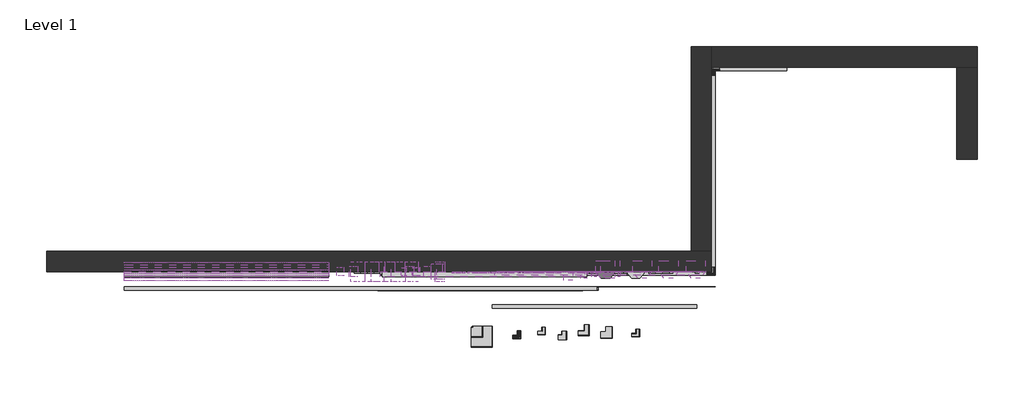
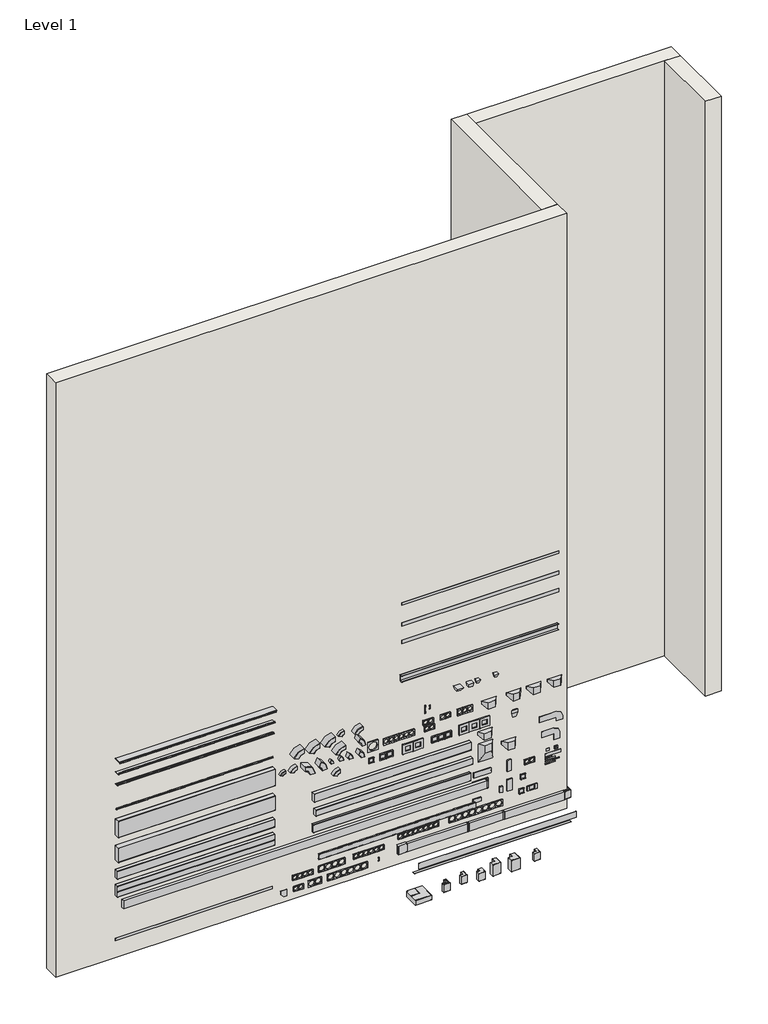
# One storey, incomplete: 102 duct fittings, 6 duct segments, 4 walls.
"""IFC4 building model written with IfcOpenShell, lengths in millimetres."""

from ifc_helpers import new_model, si_unit, frame, origin, origin_with_axes, place, context, project, spatial, polyline, outline, extrude, faceted_brep, transform, mapped, element, save
from components import duct_fitting_524967c6, duct_fitting_e132af29, duct_fitting_ebcba0b6, duct_fitting_5159cedb, duct_fitting_cb53e87e, duct_fitting_ae1ddc4c, duct_fitting_35ec757b, duct_fitting_5cd01834, duct_fitting_7d56ec52, duct_fitting_254dec16, duct_fitting_a8191257, duct_fitting_1f4c8aae, duct_fitting_5f6e9735, duct_fitting_029ce2a5, duct_fitting_9a198fcd, duct_fitting_7a984635, duct_fitting_62789fd8, duct_fitting_515ab3ab, duct_fitting_e9bb6939, duct_fitting_4d7b12ad, duct_fitting_6cefaedd, duct_fitting_5a84a718, duct_fitting_31fdbf1f, duct_fitting_d90a27f4, duct_fitting_3f5c60d5, duct_fitting_a14ef6e3, duct_fitting_0355683d, duct_fitting_19e58b72, duct_fitting_92680814, duct_fitting_5aa6bedc, duct_fitting_eff4ef8f, duct_fitting_faa056fb, duct_fitting_c62ac4ad, duct_fitting_f73fdfc4, duct_fitting_ad07ba2f, duct_fitting_a01ee9ae, duct_fitting_288de5a2, duct_fitting_c295a400, duct_fitting_c2f39a06, duct_fitting_8fd437b2, duct_fitting_39125e1a, duct_fitting_17d0504c, duct_fitting_41b2c8f4, duct_fitting_e029a808, duct_fitting_f42a3732, duct_fitting_51a7aed5, duct_fitting_ee9016c7, duct_fitting_1822938c, duct_fitting_f6a7a035, duct_fitting_b39508ff, duct_fitting_a2bda3cc, duct_fitting_b5dfe02e, duct_fitting_bd13cb54, duct_fitting_b943002c, duct_fitting_d5090730, duct_fitting_d05112f4, duct_fitting_6185d9ba, duct_fitting_d3901d29, duct_fitting_82c3dcf0, duct_fitting_f187d280, duct_fitting_51a21076, duct_fitting_5722930a, duct_fitting_024a02d0, duct_fitting_be0ce938, duct_fitting_b115d703, duct_fitting_147d1e50, duct_fitting_7075a5f6, duct_fitting_60684a8f, duct_fitting_e7094824, duct_fitting_d79518f6, duct_fitting_d154c733, duct_fitting_f8fb050e, duct_fitting_172be3a8, duct_fitting_83ac70ee, duct_fitting_17a0b45b, duct_fitting_cda0d10b, duct_fitting_70961774, duct_fitting_2fd834d6, duct_fitting_55faeba8, duct_fitting_6c5a0378, duct_fitting_362536db, duct_fitting_f2713703, duct_fitting_286deedb, duct_fitting_1d27a6c2, duct_fitting_5fcc4261, duct_fitting_8c5198b3, duct_fitting_a4b7bc50

model = new_model("IFC4")

# Units and contexts
model_context = context("Model", 3, world=origin())
ifc_project = project(units=[si_unit("LENGTHUNIT", "METRE", prefix="MILLI")], contexts=[model_context])

# Site, building, storey
site = spatial("IfcSite", under=ifc_project)
building = spatial("IfcBuilding", under=site)
storey = spatial("IfcBuildingStorey", under=building, Name="Level 1", Elevation=0.0)

# Duct fittings
placement = place(None, origin())
duct_fitting_shape = duct_fitting_524967c6(model_context)
element("IfcDuctFitting", 1, ObjectType="Кабель-канал DLP 65x220 - 2 или 3 секции - длина 2 м - белый : Кабель-канал DLP 65x220 - 2 или 3 секции - длина 2 м - белый", at=placement, inside=storey, context=model_context, shape_type="MappedRepresentation", body=[
    mapped(duct_fitting_shape, transform((-2417.0448539, -490.4153126, 1762.8046436), x_axis=(1.0, 0.0, 0.0), y_axis=(0.0, 0.0, 1.0), z_axis=(0.0, -1.0, 0.0))),
])
duct_fitting_2_shape = duct_fitting_e132af29(model_context)
element("IfcDuctFitting", 2, ObjectType="Модуль для крышек : 40мм", at=placement, inside=storey, context=model_context, shape_type="MappedRepresentation", body=[
    mapped(duct_fitting_2_shape, transform((2185.0475422, -490.4153126, 876.6566543), x_axis=(1.0, 0.0, 0.0), y_axis=(0.0, 0.0, 1.0), z_axis=(0.0, -1.0, 0.0))),
])
duct_fitting_3_shape = duct_fitting_ebcba0b6(model_context)
element("IfcDuctFitting", 3, ObjectType="Накладка на стык - DLP - на защелках - для DLP - секционируемая - белая : Накладка на стык - DLP - на защелках - для DLP - секционируемая - белая", at=placement, inside=storey, context=model_context, shape_type="MappedRepresentation", body=[
    mapped(duct_fitting_3_shape, transform((2085.0475422, -490.4153126, 876.6566543), x_axis=(1.0, 0.0, 0.0), y_axis=(0.0, 0.0, 1.0), z_axis=(0.0, -1.0, 0.0))),
])
duct_fitting_4_shape = duct_fitting_5159cedb(model_context)
element("IfcDuctFitting", 4, ObjectType="Накладка на стык - для крышек - для кабель-канала DLP - белый : 40мм", at=placement, inside=storey, context=model_context, shape_type="MappedRepresentation", body=[
    mapped(duct_fitting_4_shape, transform((2150.0475422, -490.4153126, 809.330706), x_axis=(1.0, 0.0, 0.0), y_axis=(0.0, 0.0, 1.0), z_axis=(0.0, -1.0, 0.0))),
])
duct_fitting_5_shape = duct_fitting_cb53e87e(model_context)
element("IfcDuctFitting", 5, ObjectType="Накладка на стык - для крышек - для кабель-канала DLP - белый : 85мм", at=placement, inside=storey, context=model_context, shape_type="MappedRepresentation", body=[
    mapped(duct_fitting_5_shape, transform((2095.0475422, -490.4153126, 771.6566543), x_axis=(0.0, 0.0, 1.0), y_axis=(-1.0, 0.0, 0.0), z_axis=(0.0, -1.0, 0.0))),
])
duct_fitting_6_shape = duct_fitting_ae1ddc4c(model_context)
element("IfcDuctFitting", 6, ObjectType="Накладка на стык - для крышек - для кабель-канала DLP - белый : 130мм", at=placement, inside=storey, context=model_context, shape_type="MappedRepresentation", body=[
    mapped(duct_fitting_6_shape, transform((2115.0475422, -490.4153126, 748.3126356), x_axis=(0.0, 0.0, 1.0), y_axis=(-1.0, 0.0, 0.0), z_axis=(0.0, -1.0, 0.0))),
])
duct_fitting_7_shape = duct_fitting_35ec757b(model_context)
element("IfcDuctFitting", 7, ObjectType="Накладка на стык - для крышек - для кабель-канала DLP - белый : 180мм", at=placement, inside=storey, context=model_context, shape_type="MappedRepresentation", body=[
    mapped(duct_fitting_7_shape, transform((2140.0475422, -490.4153126, 720.9913157), x_axis=(0.0, 0.0, 1.0), y_axis=(-1.0, 0.0, 0.0), z_axis=(0.0, -1.0, 0.0))),
])
element("IfcDuctFitting", 8, ObjectType="Накладка на стык крышки 65 мм DLP - для любых DLP - секционируемая - белая : Накладка на стык крышки 65 мм DLP - для любых DLP - секционируемая - белая", at=placement, inside=storey, context=model_context, shape_type="MappedRepresentation", body=[
    mapped(duct_fitting_6_shape, transform((2115.0475422, -490.4153126, 689.7700767), x_axis=(0.0, 0.0, 1.0), y_axis=(-1.0, 0.0, 0.0), z_axis=(0.0, -1.0, 0.0))),
])
duct_fitting_8_shape = duct_fitting_5cd01834(model_context)
element("IfcDuctFitting", 9, ObjectType="Накладка на стык со стеной - для кабель-каналов шириной от 80 до 150 мм : Накладка на стык со стеной - для кабель-каналов шириной от 80 до 150 мм", at=placement, inside=storey, context=model_context, shape_type="MappedRepresentation", body=[
    mapped(duct_fitting_8_shape, transform((2085.0475422, -490.4153126, 1020.0), x_axis=(1.0, 0.0, 0.0), y_axis=(0.0, 0.0, 1.0), z_axis=(0.0, -1.0, 0.0))),
])
duct_fitting_9_shape = duct_fitting_7d56ec52(model_context)
element("IfcDuctFitting", 10, ObjectType="Накладка на стык со стеной - для кабель-каналов шириной от 195 до 220 мм : Накладка на стык со стеной - для кабель-каналов шириной от 195 до 220 мм", at=placement, inside=storey, context=model_context, shape_type="MappedRepresentation", body=[
    mapped(duct_fitting_9_shape, transform((2085.0475422, -490.4153126, 1245.573234), x_axis=(1.0, 0.0, 0.0), y_axis=(0.0, 0.0, 1.0), z_axis=(0.0, -1.0, 0.0))),
])
duct_fitting_10_shape = duct_fitting_254dec16(model_context)
element("IfcDuctFitting", 11, ObjectType="Накладка плинтусная - для кабель-канала DLP 35x80 - 2 м - угольно-серый : Накладка плинтусная - для кабель-канала DLP 35x80 - 2 м - угольно-серый", at=placement, inside=storey, context=model_context, shape_type="MappedRepresentation", body=[
    mapped(duct_fitting_10_shape, transform((1360.8088359, -639.2789508, 0.0), x_axis=(1.0, 0.0, 0.0), y_axis=(0.0, 1.0, 0.0), z_axis=(0.0, 0.0, 1.0))),
])
duct_fitting_11_shape = duct_fitting_a8191257(model_context)
element("IfcDuctFitting", 12, ObjectType="Ответветвление плоское 110 Белый : Отвод плоский - для односекционных кабель-каналов DLP 65х150/195/220 - ширина профиля 105 мм - белый", at=placement, inside=storey, context=model_context, shape_type="MappedRepresentation", body=[
    mapped(duct_fitting_11_shape, transform((1660.0475422, -490.4153126, 1512.6828063), x_axis=(1.0, 0.0, 0.0), y_axis=(0.0, 0.0, 1.0), z_axis=(0.0, -1.0, 0.0))),
])
duct_fitting_12_shape = duct_fitting_1f4c8aae(model_context)
element("IfcDuctFitting", 13, ObjectType="Отвод плоский - для перехода на кабель-канал шириной 80 мм - белый : Отвод плоский - для перехода на кабель-канал шириной 80 мм - белый", at=placement, inside=storey, context=model_context, shape_type="MappedRepresentation", body=[
    mapped(duct_fitting_12_shape, transform((1585.0475422, -490.4153126, 1105.3749587), x_axis=(1.0, 0.0, 0.0), y_axis=(0.0, 0.0, 1.0), z_axis=(0.0, -1.0, 0.0))),
])
duct_fitting_13_shape = duct_fitting_5f6e9735(model_context)
element("IfcDuctFitting", 14, ObjectType="Отвод плоский - для перехода на кабель-канал шириной 80 мм - белый : Отвод плоский - для односекционных кабель-каналов DLP 35х80/105, 50х80/150 - белый", at=placement, inside=storey, context=model_context, shape_type="MappedRepresentation", body=[
    mapped(duct_fitting_13_shape, transform((2170.0475422, -490.4153126, 1736.3974609), x_axis=(1.0, 0.0, 0.0), y_axis=(0.0, 0.0, 1.0), z_axis=(0.0, -1.0, 0.0))),
])
element("IfcDuctFitting", 15, ObjectType="Отвод плоский - для перехода на кабель-канал шириной 80 мм - белый : Отвод плоский - для односекционных кабель-каналов DLP 35х105, 50х150 - ширина крышки 85 мм - белый", at=placement, inside=storey, context=model_context, shape_type="MappedRepresentation", body=[
    mapped(duct_fitting_13_shape, transform((1650.0475422, -490.4153126, 1736.3974609), x_axis=(1.0, 0.0, 0.0), y_axis=(0.0, 0.0, 1.0), z_axis=(0.0, -1.0, 0.0))),
])
duct_fitting_14_shape = duct_fitting_029ce2a5(model_context)
element("IfcDuctFitting", 16, ObjectType="Отвод плоский - для перехода на кабель-канал шириной 80 мм - белый : Отвод плоский - для односекционных кабель-каналов DLP 35х105, 50х150 - ширина крышки 65 мм - белый", at=placement, inside=storey, context=model_context, shape_type="MappedRepresentation", body=[
    mapped(duct_fitting_14_shape, transform((1905.0475422, -490.4153126, 1736.3974609), x_axis=(1.0, 0.0, 0.0), y_axis=(0.0, 0.0, 1.0), z_axis=(0.0, -1.0, 0.0))),
])
duct_fitting_15_shape = duct_fitting_9a198fcd(model_context)
element("IfcDuctFitting", 17, ObjectType="Отвод плоский - для перехода на кабель-канал шириной 80 мм - белый : Отвод плоский - для односекционных кабель-каналов DLP 65х150/195/220 - ширина профиля 105 мм - белый", at=placement, inside=storey, context=model_context, shape_type="MappedRepresentation", body=[
    mapped(duct_fitting_15_shape, transform((1290.0475422, -490.4153126, 1174.3841032), x_axis=(1.0, 0.0, 0.0), y_axis=(0.0, 0.0, 1.0), z_axis=(0.0, -1.0, 0.0))),
])
element("IfcDuctFitting", 18, ObjectType="Отвод плоский - для перехода на кабель-канал шириной 80 мм - белый : Отвод плоский - для односекционных кабель-каналов DLP 50х105 - ширина профиля 80 мм - белый", at=placement, inside=storey, context=model_context, shape_type="MappedRepresentation", body=[
    mapped(duct_fitting_13_shape, transform((1335.0475422, -490.4153126, 1736.3974609), x_axis=(1.0, 0.0, 0.0), y_axis=(0.0, 0.0, 1.0), z_axis=(0.0, -1.0, 0.0))),
])
element("IfcDuctFitting", 19, ObjectType="Отвод плоский - для перехода на кабель-канал шириной 80 мм - белый : Отвод плоский - для односекционных кабель-каналов DLP 50х105 - ширина профиля 105 мм - белый", at=placement, inside=storey, context=model_context, shape_type="MappedRepresentation", body=[
    mapped(duct_fitting_13_shape, transform((1285.0475422, -490.4153126, 1338.1385427), x_axis=(1.0, 0.0, 0.0), y_axis=(0.0, 0.0, 1.0), z_axis=(0.0, -1.0, 0.0))),
])
duct_fitting_16_shape = duct_fitting_7a984635(model_context)
element("IfcDuctFitting", 20, ObjectType="Перегородка несущая - для кабель-каналов DLP 65х150-195-220 - 2 м - белый : Перегородка несущая - для кабель-каналов DLP 65х150-195-220 - 2 м - белый", at=placement, inside=storey, context=model_context, shape_type="MappedRepresentation", body=[
    mapped(duct_fitting_16_shape, transform((1180.0475422, -830.4153126, 85.0789604), x_axis=(1.0, 0.0, 0.0), y_axis=(0.0, 1.0, 0.0), z_axis=(0.0, 0.0, 1.0))),
])
duct_fitting_17_shape = duct_fitting_62789fd8(model_context)
element("IfcDuctFitting", 21, ObjectType="Переходник на напольный кабель-канал : Переходник на напольный кабель-канал", at=placement, inside=storey, context=model_context, shape_type="MappedRepresentation", body=[
    mapped(duct_fitting_17_shape, transform((1408.7945258, -490.4153126, 2125.0), x_axis=(1.0, 0.0, 0.0), y_axis=(0.0, 0.0, 1.0), z_axis=(0.0, -1.0, 0.0))),
])
duct_fitting_18_shape = duct_fitting_515ab3ab(model_context)
duct_fitting_19_shape = duct_fitting_e9bb6939(model_context)
element("IfcDuctFitting", 22, ObjectType="Полная крышка шириной 180 мм - для кабель-канала DLP 65x195 - 2м - белый : Полная крышка шириной 180 мм - для кабель-канала DLP 65x195 - 2м - белый", at=placement, inside=storey, context=model_context, shape_type="MappedRepresentation", body=[
    mapped(duct_fitting_18_shape, transform((-2417.0448539, -490.4153126, 2680.0), x_axis=(-1.0, 0.0, 0.0), y_axis=(0.0, 0.0, -1.0), z_axis=(0.0, -1.0, 0.0))),
    mapped(duct_fitting_19_shape, transform((-2417.0448539, -490.4153126, 2680.0), x_axis=(-1.0, 0.0, 0.0), y_axis=(0.0, 0.0, -1.0), z_axis=(0.0, -1.0, 0.0))),
])
duct_fitting_20_shape = duct_fitting_4d7b12ad(model_context)
element("IfcDuctFitting", 23, ObjectType="Профиль DLP - 35х80 - 2 м - без крышки - белый : Профиль DLP - 35х80 - 2 м - без крышки - белый", at=placement, inside=storey, context=model_context, shape_type="MappedRepresentation", body=[
    mapped(duct_fitting_20_shape, transform((1205.4551461, -490.4153126, 2500.0), x_axis=(1.0, 0.0, 0.0), y_axis=(0.0, 0.0, 1.0), z_axis=(0.0, -1.0, 0.0))),
])
duct_fitting_21_shape = duct_fitting_6cefaedd(model_context)
element("IfcDuctFitting", 24, ObjectType="Разделительная перегородка - DLP - секционируемая - профиль 65 - 2 м - белая : Разделительная перегородка - DLP - секционируемая - профиль 65 - 2 м - белая", at=placement, inside=storey, context=model_context, shape_type="MappedRepresentation", body=[
    mapped(duct_fitting_21_shape, transform((1225.0475422, -490.4153126, 2971.2782527), x_axis=(1.0, 0.0, 0.0), y_axis=(0.0, 0.0, 1.0), z_axis=(0.0, -1.0, 0.0))),
])
element("IfcDuctFitting", 25, ObjectType="Разделительная перегородка - для кабель-каналов DLP 50х80-105-150 - 2м - белый : Разделительная перегородка - для кабель-каналов DLP 50х80-105-150 - 2м - белый", at=placement, inside=storey, context=model_context, shape_type="MappedRepresentation", body=[
    mapped(duct_fitting_21_shape, transform((1225.0475422, -490.4153126, 3207.6586455), x_axis=(1.0, 0.0, 0.0), y_axis=(0.0, 0.0, 1.0), z_axis=(0.0, -1.0, 0.0))),
])
element("IfcDuctFitting", 26, ObjectType="Самоклеющаяся разделительная перегородка - для кабель-канала DLP 35x80 - 2 м - белая : Самоклеющаяся разделительная перегородка - для кабель-канала DLP 35x80 - 2 м - белая", at=placement, inside=storey, context=model_context, shape_type="MappedRepresentation", body=[
    mapped(duct_fitting_16_shape, transform((1225.0475422, -490.4153126, 3482.6867864), x_axis=(1.0, 0.0, 0.0), y_axis=(0.0, 0.0, 1.0), z_axis=(0.0, -1.0, 0.0))),
])
duct_fitting_22_shape = duct_fitting_5a84a718(model_context)
element("IfcDuctFitting", 27, ObjectType="Скоба - для кабель-каналов DLP 35-50X80, 50х105-150, 65х150-220 : Скоба - для кабель-каналов DLP 35-50X80, 50х105-150, 65х150-220", at=placement, inside=storey, context=model_context, shape_type="MappedRepresentation", body=[
    mapped(duct_fitting_22_shape, transform((585.0475422, -490.4153126, 1971.9619828), x_axis=(1.0, 0.0, 0.0), y_axis=(0.0, 0.0, 1.0), z_axis=(0.0, -1.0, 0.0))),
])
duct_fitting_23_shape = duct_fitting_31fdbf1f(model_context)
element("IfcDuctFitting", 28, ObjectType="Скоба - для кабель-каналов DLP с шириной крышки 130-180 мм : Скоба - для кабель-каналов DLP с шириной крышки 130-180 мм", at=placement, inside=storey, context=model_context, shape_type="MappedRepresentation", body=[
    mapped(duct_fitting_23_shape, transform((523.7861812, -490.4153126, 1962.8648404), x_axis=(1.0, 0.0, 0.0), y_axis=(0.0, 0.0, 1.0), z_axis=(0.0, -1.0, 0.0))),
])
duct_fitting_24_shape = duct_fitting_d90a27f4(model_context)
element("IfcDuctFitting", 29, ObjectType="Супп.Mosaic 2м Cv110 Белый : Супп.Mosaic 2м Cv110 Белый", at=placement, inside=storey, context=model_context, shape_type="MappedRepresentation", body=[
    mapped(duct_fitting_24_shape, transform((527.4408833, -490.4153126, 1788.8974609), x_axis=(1.0, 0.0, 0.0), y_axis=(0.0, 0.0, 1.0), z_axis=(0.0, -1.0, 0.0))),
])
element("IfcDuctFitting", 30, ObjectType="Супп.Mosaic 4м Cv110 Белый : Супп.Mosaic 4м Cv110 Белый", at=placement, inside=storey, context=model_context, shape_type="MappedRepresentation", body=[
    mapped(duct_fitting_24_shape, transform((542.0596915, -490.4153126, 1701.4532059), x_axis=(1.0, 0.0, 0.0), y_axis=(0.0, 0.0, 1.0), z_axis=(0.0, -1.0, 0.0))),
])
element("IfcDuctFitting", 31, ObjectType="Суппорт для модульного оборудования - 2 модуля - для кабель-каналов DLP белый : 65мм", at=placement, inside=storey, context=model_context, shape_type="MappedRepresentation", body=[
    mapped(duct_fitting_24_shape, transform((744.8956557, -490.4153126, 1788.8974609), x_axis=(1.0, 0.0, 0.0), y_axis=(0.0, 0.0, 1.0), z_axis=(0.0, -1.0, 0.0))),
])
duct_fitting_25_shape = duct_fitting_3f5c60d5(model_context)
element("IfcDuctFitting", 32, ObjectType="Суппорт для модульного оборудования - 3 модуля - для кабель-каналов DLP с шириной крышки 85 мм - белый : 85мм", at=placement, inside=storey, context=model_context, shape_type="MappedRepresentation", body=[
    mapped(duct_fitting_25_shape, transform((962.3504281, -490.4153126, 1778.8974609), x_axis=(1.0, 0.0, 0.0), y_axis=(0.0, 0.0, 1.0), z_axis=(0.0, -1.0, 0.0))),
])
duct_fitting_26_shape = duct_fitting_a14ef6e3(model_context)
element("IfcDuctFitting", 33, ObjectType="Суппорт для модульного оборудования - 6 модулей - для кабель-каналов DLP с шириной крышки 130 мм - белый : 85мм", at=placement, inside=storey, context=model_context, shape_type="MappedRepresentation", body=[
    mapped(duct_fitting_26_shape, transform((24.9193505, -490.4153126, 1711.7008784), x_axis=(1.0, 0.0, 0.0), y_axis=(0.0, 0.0, 1.0), z_axis=(0.0, -1.0, 0.0))),
])
duct_fitting_27_shape = duct_fitting_0355683d(model_context)
element("IfcDuctFitting", 34, ObjectType="Суппорт для розеток Р17 - для кабель-канала DLP - белый : 130мм", at=placement, inside=storey, context=model_context, shape_type="MappedRepresentation", body=[
    mapped(duct_fitting_27_shape, transform((-145.0242952, -490.4153126, 1709.5312546), x_axis=(1.0, 0.0, 0.0), y_axis=(0.0, 0.0, 1.0), z_axis=(0.0, -1.0, 0.0))),
])
duct_fitting_28_shape = duct_fitting_19e58b72(model_context)
element("IfcDuctFitting", 35, ObjectType="Суппорт универсальный - 1 пост - для кабель-каналов DLP и розеточных блоков - белый : Суппорт универсальный - 1 пост - для кабель-каналов DLP и розеточных блоков - белый", at=placement, inside=storey, context=model_context, shape_type="MappedRepresentation", body=[
    mapped(duct_fitting_28_shape, transform((-165.1251565, -490.4153126, 1522.5825337), x_axis=(1.0, 0.0, 0.0), y_axis=(0.0, 0.0, 1.0), z_axis=(0.0, -1.0, 0.0))),
])
duct_fitting_29_shape = duct_fitting_92680814(model_context)
element("IfcDuctFitting", 36, ObjectType="Суппорт универсальный - 2 поста - для кабель-каналов DLP - белый : 130мм", at=placement, inside=storey, context=model_context, shape_type="MappedRepresentation", body=[
    mapped(duct_fitting_29_shape, transform((299.0220047, -490.4153126, 1525.7482817), x_axis=(1.0, 0.0, 0.0), y_axis=(0.0, 0.0, 1.0), z_axis=(0.0, -1.0, 0.0))),
])
duct_fitting_30_shape = duct_fitting_5aa6bedc(model_context)
element("IfcDuctFitting", 37, ObjectType="Суппорт универсальный - 2 поста - для кабель-каналов DLP - белый : 85мм", at=placement, inside=storey, context=model_context, shape_type="MappedRepresentation", body=[
    mapped(duct_fitting_30_shape, transform((-15.2823722, -490.4153126, 1523.5513621), x_axis=(1.0, 0.0, 0.0), y_axis=(0.0, 0.0, 1.0), z_axis=(0.0, -1.0, 0.0))),
])
duct_fitting_31_shape = duct_fitting_eff4ef8f(model_context)
element("IfcDuctFitting", 38, ObjectType="Суппорт универсальный - 3 поста - для кабель-каналов DLP - белый : 130мм", at=placement, inside=storey, context=model_context, shape_type="MappedRepresentation", body=[
    mapped(duct_fitting_31_shape, transform((1015.3436079, -490.4153126, 1533.3863166), x_axis=(1.0, 0.0, 0.0), y_axis=(0.0, 0.0, 1.0), z_axis=(0.0, -1.0, 0.0))),
])
duct_fitting_32_shape = duct_fitting_faa056fb(model_context)
element("IfcDuctFitting", 39, ObjectType="Суппорт универсальный - 3 поста - для кабель-каналов DLP - белый : 85мм", at=placement, inside=storey, context=model_context, shape_type="MappedRepresentation", body=[
    mapped(duct_fitting_32_shape, transform((642.5639981, -490.4153126, 1526.7751099), x_axis=(1.0, 0.0, 0.0), y_axis=(0.0, 0.0, 1.0), z_axis=(0.0, -1.0, 0.0))),
])
duct_fitting_33_shape = duct_fitting_c62ac4ad(model_context)
duct_fitting_34_shape = duct_fitting_f73fdfc4(model_context)
element("IfcDuctFitting", 40, ObjectType="Частичная крышка шириной 40 мм - для кабель-канала DLP 65x195 - 2м - белый : 40мм", at=placement, inside=storey, context=model_context, shape_type="MappedRepresentation", body=[
    mapped(duct_fitting_33_shape, transform((-2417.0448539, -490.4153126, 2000.0), x_axis=(1.0, 0.0, 0.0), y_axis=(0.0, 0.0, 1.0), z_axis=(0.0, -1.0, 0.0))),
    mapped(duct_fitting_34_shape, transform((-2417.0448539, -490.4153126, 2000.0), x_axis=(1.0, 0.0, 0.0), y_axis=(0.0, 0.0, 1.0), z_axis=(0.0, -1.0, 0.0))),
])
duct_fitting_35_shape = duct_fitting_ad07ba2f(model_context)
duct_fitting_36_shape = duct_fitting_a01ee9ae(model_context)
element("IfcDuctFitting", 41, ObjectType="Частичная крышка шириной 40 мм - для кабель-канала DLP 65x195 - 2м - белый : 85мм", at=placement, inside=storey, context=model_context, shape_type="MappedRepresentation", body=[
    mapped(duct_fitting_35_shape, transform((-2417.0448539, -490.4153126, 2339.6344884), x_axis=(1.0, 0.0, 0.0), y_axis=(0.0, 0.0, 1.0), z_axis=(0.0, -1.0, 0.0))),
    mapped(duct_fitting_36_shape, transform((-2417.0448539, -490.4153126, 2339.6344884), x_axis=(1.0, 0.0, 0.0), y_axis=(0.0, 0.0, 1.0), z_axis=(0.0, -1.0, 0.0))),
])
duct_fitting_37_shape = duct_fitting_288de5a2(model_context)
duct_fitting_38_shape = duct_fitting_c295a400(model_context)
element("IfcDuctFitting", 42, ObjectType="Частичная крышка шириной 40 мм - для кабель-канала DLP 65x195 - 2м - белый : 130мм", at=placement, inside=storey, context=model_context, shape_type="MappedRepresentation", body=[
    mapped(duct_fitting_37_shape, transform((-2417.0448539, -490.4153126, 2500.0), x_axis=(1.0, 0.0, 0.0), y_axis=(0.0, 0.0, 1.0), z_axis=(0.0, -1.0, 0.0))),
    mapped(duct_fitting_38_shape, transform((-2417.0448539, -490.4153126, 2500.0), x_axis=(1.0, 0.0, 0.0), y_axis=(0.0, 0.0, 1.0), z_axis=(0.0, -1.0, 0.0))),
])
duct_fitting_39_shape = duct_fitting_c2f39a06(model_context)
duct_fitting_40_shape = duct_fitting_8fd437b2(model_context)
element("IfcDuctFitting", 43, ObjectType="Частичная крышка шириной 65 мм - для кабель-канала DLP 65x195 - 2м - белый : Частичная крышка шириной 65 мм - для кабель-канала DLP 65x195 - 2м - белый", at=placement, inside=storey, context=model_context, shape_type="MappedRepresentation", body=[
    mapped(duct_fitting_39_shape, transform((65.0475422, -674.2789508, 594.0893649), x_axis=(1.0, 0.0, 0.0), y_axis=(0.0, 1.0, 0.0), z_axis=(0.0, 0.0, 1.0))),
    mapped(duct_fitting_40_shape, transform((65.0475422, -674.2789508, 594.0893649), x_axis=(1.0, 0.0, 0.0), y_axis=(0.0, 1.0, 0.0), z_axis=(0.0, 0.0, 1.0))),
])
duct_fitting_41_shape = duct_fitting_39125e1a(model_context)
element("IfcDuctFitting", 44, ObjectType="DLP Держатель кабеля (скоба) : DLP Держатель кабеля (скоба)", at=placement, inside=storey, context=model_context, shape_type="MappedRepresentation", body=[
    mapped(duct_fitting_41_shape, transform((-64.9524578, -490.4153126, 152.929345), x_axis=(1.0, 0.0, 0.0), y_axis=(0.0, 0.0, 1.0), z_axis=(0.0, -1.0, 0.0))),
])
element("IfcDuctFitting", 45, ObjectType="DLP Сепаратор внутренний : DLP Сепаратор внутренний", at=placement, inside=storey, context=model_context, shape_type="MappedRepresentation", body=[
    mapped(duct_fitting_16_shape, transform((-2417.0448539, -490.4153126, 244.5937942), x_axis=(1.0, 0.0, 0.0), y_axis=(0.0, 0.0, 1.0), z_axis=(0.0, -1.0, 0.0))),
])
duct_fitting_42_shape = duct_fitting_17d0504c(model_context)
element("IfcDuctFitting", 46, ObjectType="DLP Сепаратор для углов : DLP Сепаратор для углов", at=placement, inside=storey, context=model_context, shape_type="MappedRepresentation", body=[
    mapped(duct_fitting_42_shape, transform((-1274.9524578, -490.4153126, 114.9871073), x_axis=(1.0, 0.0, 0.0), y_axis=(0.0, 0.0, 1.0), z_axis=(0.0, -1.0, 0.0))),
])
element("IfcDuctFitting", 47, ObjectType="Mosaic Суппорт на 2 модуля : 65мм", at=placement, inside=storey, context=model_context, shape_type="MappedRepresentation", body=[
    mapped(duct_fitting_24_shape, transform((-1124.9524578, -490.4153126, 135.5347509), x_axis=(1.0, 0.0, 0.0), y_axis=(0.0, 0.0, 1.0), z_axis=(0.0, -1.0, 0.0))),
])
element("IfcDuctFitting", 48, ObjectType="Mosaic Суппорт на 2 модуля : 65мм", at=placement, inside=storey, context=model_context, shape_type="MappedRepresentation", body=[
    mapped(duct_fitting_24_shape, transform((1815.0475422, -490.4153126, 812.7908915), x_axis=(1.0, 0.0, 0.0), y_axis=(0.0, 0.0, 1.0), z_axis=(0.0, -1.0, 0.0))),
])
duct_fitting_43_shape = duct_fitting_41b2c8f4(model_context)
element("IfcDuctFitting", 49, ObjectType="Mosaic Суппорт на 2 модуля : 85мм", at=placement, inside=storey, context=model_context, shape_type="MappedRepresentation", body=[
    mapped(duct_fitting_43_shape, transform((-924.9524578, -490.4153126, 137.0697124), x_axis=(1.0, 0.0, 0.0), y_axis=(0.0, 0.0, 1.0), z_axis=(0.0, -1.0, 0.0))),
])
duct_fitting_44_shape = duct_fitting_e029a808(model_context)
element("IfcDuctFitting", 50, ObjectType="Mosaic Суппорт на 4 модуля : 65мм", at=placement, inside=storey, context=model_context, shape_type="MappedRepresentation", body=[
    mapped(duct_fitting_44_shape, transform((-1134.9524578, -490.4153126, 286.369847), x_axis=(1.0, 0.0, 0.0), y_axis=(0.0, 0.0, 1.0), z_axis=(0.0, -1.0, 0.0))),
])
duct_fitting_45_shape = duct_fitting_f42a3732(model_context)
element("IfcDuctFitting", 51, ObjectType="Mosaic Суппорт на 4 модуля : 85мм", at=placement, inside=storey, context=model_context, shape_type="MappedRepresentation", body=[
    mapped(duct_fitting_45_shape, transform((-794.9524578, -490.4153126, 290.39859), x_axis=(1.0, 0.0, 0.0), y_axis=(0.0, 0.0, 1.0), z_axis=(0.0, -1.0, 0.0))),
])
duct_fitting_46_shape = duct_fitting_51a7aed5(model_context)
element("IfcDuctFitting", 52, ObjectType="Mosaic Суппорт на 6 модуля : 65мм", at=placement, inside=storey, context=model_context, shape_type="MappedRepresentation", body=[
    mapped(duct_fitting_46_shape, transform((-359.9524578, -490.4153126, 301.9163379), x_axis=(1.0, 0.0, 0.0), y_axis=(0.0, 0.0, 1.0), z_axis=(0.0, -1.0, 0.0))),
])
duct_fitting_47_shape = duct_fitting_ee9016c7(model_context)
element("IfcDuctFitting", 53, ObjectType="Mosaic Суппорт на 6 модуля : 85мм", at=placement, inside=storey, context=model_context, shape_type="MappedRepresentation", body=[
    mapped(duct_fitting_47_shape, transform((-679.9524578, -490.4153126, 136.540091), x_axis=(1.0, 0.0, 0.0), y_axis=(0.0, 0.0, 1.0), z_axis=(0.0, -1.0, 0.0))),
])
duct_fitting_48_shape = duct_fitting_1822938c(model_context)
element("IfcDuctFitting", 54, ObjectType="Mosaic Суппорт на 8 модулей : 65мм", at=placement, inside=storey, context=model_context, shape_type="MappedRepresentation", body=[
    mapped(duct_fitting_48_shape, transform((205.0475422, -490.4153126, 371.3713888), x_axis=(1.0, 0.0, 0.0), y_axis=(0.0, 0.0, 1.0), z_axis=(0.0, -1.0, 0.0))),
])
duct_fitting_49_shape = duct_fitting_f6a7a035(model_context)
element("IfcDuctFitting", 55, ObjectType="Mosaic Суппорт на 8 модулей : 85мм", at=placement, inside=storey, context=model_context, shape_type="MappedRepresentation", body=[
    mapped(duct_fitting_49_shape, transform((865.0475422, -490.4153126, 374.0223065), x_axis=(1.0, 0.0, 0.0), y_axis=(0.0, 0.0, 1.0), z_axis=(0.0, -1.0, 0.0))),
])
duct_fitting_50_shape = duct_fitting_b39508ff(model_context)
element("IfcDuctFitting", 56, ObjectType="Заглушка торцевая - для кабель-каналов DLP - белый : 35x105мм", at=placement, inside=storey, context=model_context, shape_type="MappedRepresentation", body=[
    mapped(duct_fitting_50_shape, transform((1205.4551461, -656.7789508, 823.2409027), x_axis=(0.0, 0.0, 1.0), y_axis=(0.0, -1.0, 0.0), z_axis=(1.0, 0.0, 0.0))),
])
duct_fitting_51_shape = duct_fitting_a2bda3cc(model_context)
element("IfcDuctFitting", 57, ObjectType="Заглушка торцевая - для кабель-каналов DLP - белый : 50х105мм", at=placement, inside=storey, context=model_context, shape_type="MappedRepresentation", body=[
    mapped(duct_fitting_51_shape, transform((1180.0475422, -490.4153126, 516.5000708), x_axis=(1.0, 0.0, 0.0), y_axis=(0.0, 0.0, 1.0), z_axis=(0.0, -1.0, 0.0))),
])
duct_fitting_52_shape = duct_fitting_b5dfe02e(model_context)
element("IfcDuctFitting", 58, ObjectType="Заглушка торцевая - для кабель-каналов DLP - белый : 65х195мм", at=placement, inside=storey, context=model_context, shape_type="MappedRepresentation", body=[
    mapped(duct_fitting_52_shape, transform((1225.0475422, -490.4153126, 739.8278893), x_axis=(1.0, 0.0, 0.0), y_axis=(0.0, 0.0, 1.0), z_axis=(0.0, -1.0, 0.0))),
])
duct_fitting_53_shape = duct_fitting_bd13cb54(model_context)
element("IfcDuctFitting", 59, ObjectType="Заглушка торцевая - для кабель-каналов DLP - белый : 65х220мм", at=placement, inside=storey, context=model_context, shape_type="MappedRepresentation", body=[
    mapped(duct_fitting_53_shape, transform((1245.0475422, -490.4153126, 860.8153268), x_axis=(-1.0, 0.0, 0.0), y_axis=(0.0, 0.0, -1.0), z_axis=(0.0, -1.0, 0.0))),
])
duct_fitting_54_shape = duct_fitting_b943002c(model_context)
element("IfcDuctFitting", 60, ObjectType="Заглушка торцевая - для односекционных кабель-каналов DLP - белый : 50х150мм", at=placement, inside=storey, context=model_context, shape_type="MappedRepresentation", body=[
    mapped(duct_fitting_54_shape, transform((1585.0475422, -490.4153126, 842.3941678), x_axis=(1.0, 0.0, 0.0), y_axis=(0.0, 0.0, 1.0), z_axis=(0.0, -1.0, 0.0))),
])
duct_fitting_55_shape = duct_fitting_d5090730(model_context)
element("IfcDuctFitting", 61, ObjectType="Заглушка торцевая - для односекционных кабель-каналов DLP - белый : 65х150мм", at=placement, inside=storey, context=model_context, shape_type="MappedRepresentation", body=[
    mapped(duct_fitting_55_shape, transform((1595.0475422, -490.4153126, 580.0910025), x_axis=(1.0, 0.0, 0.0), y_axis=(0.0, 0.0, 1.0), z_axis=(0.0, -1.0, 0.0))),
])
duct_fitting_56_shape = duct_fitting_d05112f4(model_context)
element("IfcDuctFitting", 62, ObjectType="Заглушка торцевая - для односекционных кабель-каналов DLP - белый : 35/50х80", at=placement, inside=storey, context=model_context, shape_type="MappedRepresentation", body=[
    mapped(duct_fitting_56_shape, transform((1485.0475422, -490.4153126, 554.6229437), x_axis=(1.0, 0.0, 0.0), y_axis=(0.0, 0.0, 1.0), z_axis=(0.0, -1.0, 0.0))),
])
element("IfcDuctFitting", 63, ObjectType="Изолирующая коробка - 1 пост - суппорт универсальный - для монтажа : Изолирующая коробка - 1 пост - суппорт универсальный - для монтажа", at=placement, inside=storey, context=model_context, shape_type="MappedRepresentation", body=[
    mapped(duct_fitting_28_shape, transform((1745.0475422, -490.4153126, 442.610795), x_axis=(1.0, 0.0, 0.0), y_axis=(0.0, 0.0, 1.0), z_axis=(0.0, -1.0, 0.0))),
])
duct_fitting_57_shape = duct_fitting_6185d9ba(model_context)
element("IfcDuctFitting", 64, ObjectType="Изолирующая коробка - 2 модуля - суппорт Mosaic - для кабель-каналов DLP с шириной крышки : Изолирующая коробка - 2 модуля - суппорт Mosaic - для кабель-каналов DLP с шириной крышки", at=placement, inside=storey, context=model_context, shape_type="MappedRepresentation", body=[
    mapped(duct_fitting_57_shape, transform((1880.0475422, -490.4153126, 445.8152376), x_axis=(1.0, 0.0, 0.0), y_axis=(0.0, 0.0, 1.0), z_axis=(0.0, -1.0, 0.0))),
])
duct_fitting_58_shape = duct_fitting_d3901d29(model_context)
element("IfcDuctFitting", 65, ObjectType="Кабель-канал DLP 35x105 - 1 секция - 1 крышка 85 мм - длина 2 м - белый : Кабель-канал DLP 35x105 - 1 секция - 1 крышка 85 мм - длина 2 м - белый", at=placement, inside=storey, context=model_context, shape_type="MappedRepresentation", body=[
    mapped(duct_fitting_58_shape, transform((85.0475422, -490.4153126, 876.6566543), x_axis=(1.0, 0.0, 0.0), y_axis=(0.0, 0.0, 1.0), z_axis=(0.0, -1.0, 0.0))),
])
duct_fitting_59_shape = duct_fitting_82c3dcf0(model_context)
element("IfcDuctFitting", 66, ObjectType="Кабель-канал DLP 50x80 - 1 секция - 1 крышка 65 мм - длина 2 м - белый : Кабель-канал DLP 50x80 - 1 секция - 1 крышка 65 мм - длина 2 м - белый", at=placement, inside=storey, context=model_context, shape_type="MappedRepresentation", body=[
    mapped(duct_fitting_59_shape, transform((105.0475422, -490.4153126, 1088.7038136), x_axis=(1.0, 0.0, 0.0), y_axis=(0.0, 0.0, 1.0), z_axis=(0.0, -1.0, 0.0))),
])
duct_fitting_60_shape = duct_fitting_f187d280(model_context)
element("IfcDuctFitting", 67, ObjectType="Кабель-канал DLP 50x105 - 1 секция - 1 крышка 65 мм - длина 2 м - белый : Кабель-канал DLP 50x105 - 1 секция - 1 крышка 65 мм - длина 2 м - белый", at=placement, inside=storey, context=model_context, shape_type="MappedRepresentation", body=[
    mapped(duct_fitting_60_shape, transform((85.0475422, -490.4153126, 1299.1387741), x_axis=(1.0, 0.0, 0.0), y_axis=(0.0, 0.0, 1.0), z_axis=(0.0, -1.0, 0.0))),
])
duct_fitting_61_shape = duct_fitting_51a21076(model_context)
element("IfcDuctFitting", 68, ObjectType="Кабель-канал DLP 50x150 - 2 секции - 2 крышки 65 мм - длина 2 м - белый : Кабель-канал DLP 50x150 - 2 секции - 2 крышки 65 мм - длина 2 м - белый", at=placement, inside=storey, context=model_context, shape_type="MappedRepresentation", body=[
    mapped(duct_fitting_61_shape, transform((-2417.0448539, -490.4153126, 914.8244223), x_axis=(1.0, 0.0, 0.0), y_axis=(0.0, 0.0, 1.0), z_axis=(0.0, -1.0, 0.0))),
])
element("IfcDuctFitting", 69, ObjectType="Кабель-канал DLP 65x150 -1 или 2 секции - длина 2 м - белый : Кабель-канал DLP 65x150 -1 или 2 секции - длина 2 м - белый", at=placement, inside=storey, context=model_context, shape_type="MappedRepresentation", body=[
    mapped(duct_fitting_60_shape, transform((-2417.0448539, -490.4153126, 1139.2225031), x_axis=(1.0, 0.0, 0.0), y_axis=(0.0, 0.0, 1.0), z_axis=(0.0, -1.0, 0.0))),
])
duct_fitting_62_shape = duct_fitting_5722930a(model_context)
element("IfcDuctFitting", 70, ObjectType="Кабель-канал DLP 65x195 -1, 2 или 3 секции - длина 2 м - белый : Кабель-канал DLP 65x195 -1, 2 или 3 секции - длина 2 м - белый", at=placement, inside=storey, context=model_context, shape_type="MappedRepresentation", body=[
    mapped(duct_fitting_62_shape, transform((-2417.0448539, -490.4153126, 1416.3908538), x_axis=(1.0, 0.0, 0.0), y_axis=(0.0, 0.0, 1.0), z_axis=(0.0, -1.0, 0.0))),
])
duct_fitting_63_shape = duct_fitting_024a02d0(model_context)
element("IfcDuctFitting", 71, ObjectType="Угол плоский 90° - для кабель-каналов DLP - белый : 65х195мм", at=placement, inside=storey, context=model_context, shape_type="MappedRepresentation", body=[
    mapped(duct_fitting_63_shape, transform((85.0475422, -1130.4153126, 0.0), x_axis=(1.0, 0.0, 0.0), y_axis=(0.0, 1.0, 0.0), z_axis=(0.0, 0.0, 1.0))),
])
duct_fitting_64_shape = duct_fitting_be0ce938(model_context)
element("IfcDuctFitting", 72, ObjectType="Угол плоский 90° - для кабель-каналов DLP - белый : 65х220мм", at=placement, inside=storey, context=model_context, shape_type="MappedRepresentation", body=[
    mapped(duct_fitting_64_shape, transform((2343.320084, -507.8882529, 208.3785517), x_axis=(0.9999999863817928, 3.73115186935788e-05, -0.00016076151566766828), y_axis=(-3.7311518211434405e-05, 0.9999999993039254, 5.998256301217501e-09), z_axis=(0.0001607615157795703, 0.0, 0.9999999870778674))),
])
element("IfcDuctFitting", 73, ObjectType="Угол плоский 90° - для кабель-каналов DLP - белый : 65х220мм", at=placement, inside=storey, context=model_context, shape_type="MappedRepresentation", body=[
    mapped(duct_fitting_64_shape, transform((2343.3172763, 1492.1441509, 222.5859335), x_axis=(-1.0, 0.0, 0.0), y_axis=(0.0, -0.9999731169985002, -0.007332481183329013), z_axis=(0.0, -0.007332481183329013, 0.9999731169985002))),
])
element("IfcDuctFitting", 74, ObjectType="Угол плоский 90° - для кабель-каналов DLP - белый : 65х220мм", at=placement, inside=storey, context=model_context, shape_type="MappedRepresentation", body=[
    mapped(duct_fitting_64_shape, transform((445.0475422, -1130.4153126, 0.0), x_axis=(1.0, 0.0, 0.0), y_axis=(0.0, 1.0, 0.0), z_axis=(0.0, 0.0, 1.0))),
])
duct_fitting_65_shape = duct_fitting_b115d703(model_context)
element("IfcDuctFitting", 75, ObjectType="Угол плоский 90° - для кабель-каналов DLP - белый : 65х220мм", at=placement, inside=storey, context=model_context, shape_type="MappedRepresentation", body=[
    mapped(duct_fitting_65_shape, transform((218.0947293, -505.8744362, 205.4938813), x_axis=(-0.9999999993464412, -3.1508518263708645e-05, -1.7729375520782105e-05), y_axis=(-1.7729375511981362e-05, -5.586263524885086e-10, 0.9999999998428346), z_axis=(-3.15085182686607e-05, 0.9999999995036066, 0.0))),
])
duct_fitting_66_shape = duct_fitting_147d1e50(model_context)
element("IfcDuctFitting", 76, ObjectType="Накладка на стык профиля - на защелках - для односекционных кабель-каналов DLP 50х105 - белый : Накладка на стык профиля - на защелках - для односекционных кабель-каналов DLP 50х105 - белый", at=placement, inside=storey, context=model_context, shape_type="MappedRepresentation", body=[
    mapped(duct_fitting_66_shape, transform((1496.6097255, -507.9152764, 206.0839352), x_axis=(0.9999999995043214, 3.14858234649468e-05, 0.0), y_axis=(-3.14858234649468e-05, 0.9999999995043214, 0.0), z_axis=(0.0, 0.0, 1.0))),
])
duct_fitting_67_shape = duct_fitting_7075a5f6(model_context)
element("IfcDuctFitting", 77, ObjectType="Накладка на стык профиля - самоклеющаяся - для односекционных кабель-каналов DLP - белый : Накладка на стык профиля - самоклеющаяся - для односекционных кабель-каналов DLP - белый", at=placement, inside=storey, context=model_context, shape_type="MappedRepresentation", body=[
    mapped(duct_fitting_67_shape, transform((1063.7575071, -507.9289051, 205.429383), x_axis=(0.9999999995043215, 3.148582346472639e-05, 0.0), y_axis=(-3.148582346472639e-05, 0.9999999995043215, 0.0), z_axis=(0.0, 0.0, 1.0))),
])
element("IfcDuctFitting", 78, ObjectType="Переходник на напольный кабель-канал : Переходник на напольный кабель-канал Кат. № 0 328 00", at=placement, inside=storey, context=model_context, shape_type="MappedRepresentation", body=[
    mapped(duct_fitting_17_shape, transform((1179.4257011, -490.4153126, 2125.0), x_axis=(1.0, 0.0, 0.0), y_axis=(0.0, 0.0, 1.0), z_axis=(0.0, -1.0, 0.0))),
])
duct_fitting_68_shape = duct_fitting_60684a8f(model_context)
element("IfcDuctFitting", 79, ObjectType="Переходник на напольный кабель-канал : Переходник на напольный кабель-канал, крышка 65мм", at=placement, inside=storey, context=model_context, shape_type="MappedRepresentation", body=[
    mapped(duct_fitting_68_shape, transform((1077.1769479, -490.4153126, 2125.0), x_axis=(1.0, 0.0, 0.0), y_axis=(0.0, 0.0, 1.0), z_axis=(0.0, -1.0, 0.0))),
])
duct_fitting_69_shape = duct_fitting_e7094824(model_context)
element("IfcDuctFitting", 80, ObjectType="Переходник на напольный кабель-канал : Переходник на напольный кабель-канал, крышка 85мм", at=placement, inside=storey, context=model_context, shape_type="MappedRepresentation", body=[
    mapped(duct_fitting_69_shape, transform((925.0475422, -490.4153126, 2125.0), x_axis=(1.0, 0.0, 0.0), y_axis=(0.0, 0.0, 1.0), z_axis=(0.0, -1.0, 0.0))),
])
duct_fitting_70_shape = duct_fitting_d79518f6(model_context)
element("IfcDuctFitting", 81, ObjectType="Угол внеш. 80х50 бел. для Кат.№ 0 106 22 : Угол внешний переменный от 60° до 120° - для кабель-каналов DLP 50х105 - белый", at=placement, inside=storey, context=model_context, shape_type="MappedRepresentation", body=[
    mapped(duct_fitting_70_shape, transform((-652.3562964, -490.4153126, 1574.2247792), x_axis=(1.0, 0.0, 0.0), y_axis=(0.0, 0.0, 1.0), z_axis=(0.0, -1.0, 0.0))),
])
duct_fitting_71_shape = duct_fitting_d154c733(model_context)
element("IfcDuctFitting", 82, ObjectType="Угол внешний переменный от 60° до 120° - для кабель-каналов - белый : Угол внешний переменный от 60° до 120° - для кабель-каналов DLP 35х80/105 - белый", at=placement, inside=storey, context=model_context, shape_type="MappedRepresentation", body=[
    mapped(duct_fitting_71_shape, transform((-675.0947921, -490.4153126, 1672.6914686), x_axis=(1.0, 0.0, 0.0), y_axis=(0.0, 0.0, 1.0), z_axis=(0.0, -1.0, 0.0))),
])
duct_fitting_72_shape = duct_fitting_f8fb050e(model_context)
element("IfcDuctFitting", 83, ObjectType="Угол внешний переменный от 60° до 120° - для кабель-каналов - белый : Угол внешний переменный от 60° до 120° - для кабель-каналов DLP 50х105 - белый", at=placement, inside=storey, context=model_context, shape_type="MappedRepresentation", body=[
    mapped(duct_fitting_72_shape, transform((-444.5391977, -490.4153126, 1665.226549), x_axis=(1.0, 0.0, 0.0), y_axis=(0.0, 0.0, 1.0), z_axis=(0.0, -1.0, 0.0))),
])
duct_fitting_73_shape = duct_fitting_172be3a8(model_context)
element("IfcDuctFitting", 84, ObjectType="Угол внешний переменный от 60° до 120° - для кабель-каналов - белый : Угол внешний переменный от 60° до 120° - для кабель-каналов DLP 50х150 - белый", at=placement, inside=storey, context=model_context, shape_type="MappedRepresentation", body=[
    mapped(duct_fitting_73_shape, transform((-306.9750771, -490.4153126, 1652.2855082), x_axis=(1.0, 0.0, 0.0), y_axis=(0.0, 0.0, 1.0), z_axis=(0.0, -1.0, 0.0))),
])
duct_fitting_74_shape = duct_fitting_83ac70ee(model_context)
element("IfcDuctFitting", 85, ObjectType="Угол внешний переменный от 60° до 120° - для кабель-каналов - белый : Угол внешний переменный от 60° до 120° - для кабель-каналов DLP 50х80 - белый", at=placement, inside=storey, context=model_context, shape_type="MappedRepresentation", body=[
    mapped(duct_fitting_74_shape, transform((-554.8562964, -490.4153126, 1671.7247792), x_axis=(1.0, 0.0, 0.0), y_axis=(0.0, 0.0, 1.0), z_axis=(0.0, -1.0, 0.0))),
])
duct_fitting_75_shape = duct_fitting_17a0b45b(model_context)
element("IfcDuctFitting", 86, ObjectType="Угол внешний переменный от 60° до 120° - для кабель-каналов - белый : Угол внешний переменный от 60° до 120° - для кабель-каналов DLP 65х150/195 - 1 секция - белый", at=placement, inside=storey, context=model_context, shape_type="MappedRepresentation", body=[
    mapped(duct_fitting_75_shape, transform((-306.9750771, -490.4153126, 1824.7769615), x_axis=(1.0, 0.0, 0.0), y_axis=(0.0, 0.0, 1.0), z_axis=(0.0, -1.0, 0.0))),
])
duct_fitting_76_shape = duct_fitting_cda0d10b(model_context)
element("IfcDuctFitting", 87, ObjectType="Угол внешний переменный от 60° до 120° - для кабель-каналов - белый : Угол внешний переменный от 60° до 120° - для кабель-каналов DLP 65х150/195/220 - 2 секции", at=placement, inside=storey, context=model_context, shape_type="MappedRepresentation", body=[
    mapped(duct_fitting_76_shape, transform((-804.9524578, -490.4153126, 1672.6914686), x_axis=(1.0, 0.0, 0.0), y_axis=(0.0, 0.0, 1.0), z_axis=(0.0, -1.0, 0.0))),
])
duct_fitting_77_shape = duct_fitting_70961774(model_context)
element("IfcDuctFitting", 88, ObjectType="Угол внешний переменный от 60° до 120° - для кабель-каналов - белый : Угол внешний переменный от 60° до 120° - для кабель-каналов DLP 65х195/220 - 3 секции", at=placement, inside=storey, context=model_context, shape_type="MappedRepresentation", body=[
    mapped(duct_fitting_77_shape, transform((-960.4368851, -490.4153126, 1672.6914686), x_axis=(1.0, 0.0, 0.0), y_axis=(0.0, 0.0, 1.0), z_axis=(0.0, -1.0, 0.0))),
])
duct_fitting_78_shape = duct_fitting_2fd834d6(model_context)
element("IfcDuctFitting", 89, ObjectType="Угол внутренний 110 Белый : Угол Внутренний 110 Белый", at=placement, inside=storey, context=model_context, shape_type="MappedRepresentation", body=[
    mapped(duct_fitting_78_shape, transform((-784.9524578, -490.4153126, 2079.4975225), x_axis=(1.0, 0.0, 0.0), y_axis=(0.0, 0.0, 1.0), z_axis=(0.0, -1.0, 0.0))),
])
duct_fitting_79_shape = duct_fitting_55faeba8(model_context)
element("IfcDuctFitting", 90, ObjectType="Угол внутренний переменный от 80° до 100° - для кабель-каналов DLP - белый : Угол внутренний переменный от 60° до 120° - для кабель-каналов DLP 35х80/105 - белый", at=placement, inside=storey, context=model_context, shape_type="MappedRepresentation", body=[
    mapped(duct_fitting_79_shape, transform((-1326.3345725, -490.4153126, 1788.8974609), x_axis=(1.0, 0.0, 0.0), y_axis=(0.0, 0.0, 1.0), z_axis=(0.0, -1.0, 0.0))),
])
duct_fitting_80_shape = duct_fitting_6c5a0378(model_context)
element("IfcDuctFitting", 91, ObjectType="Угол внутренний переменный от 80° до 100° - для кабель-каналов DLP - белый : Угол внутренний переменный от 60° до 120° - для кабель-каналов DLP 50х105 - белый", at=placement, inside=storey, context=model_context, shape_type="MappedRepresentation", body=[
    mapped(duct_fitting_80_shape, transform((-1200.2660138, -490.4153126, 1808.634311), x_axis=(1.0, 0.0, 0.0), y_axis=(0.0, 0.0, 1.0), z_axis=(0.0, -1.0, 0.0))),
])
duct_fitting_81_shape = duct_fitting_362536db(model_context)
element("IfcDuctFitting", 92, ObjectType="Угол внутренний переменный от 80° до 100° - для кабель-каналов DLP - белый : Угол внутренний переменный от 60° до 120° - для кабель-каналов DLP 50х150 - белый", at=placement, inside=storey, context=model_context, shape_type="MappedRepresentation", body=[
    mapped(duct_fitting_81_shape, transform((-397.9294881, -490.4153126, 2079.4975225), x_axis=(1.0, 0.0, 0.0), y_axis=(0.0, 0.0, 1.0), z_axis=(0.0, -1.0, 0.0))),
])
duct_fitting_82_shape = duct_fitting_f2713703(model_context)
element("IfcDuctFitting", 93, ObjectType="Угол внутренний переменный от 80° до 100° - для кабель-каналов DLP - белый : Угол внутренний переменный от 60° до 120° - для кабель-каналов DLP 50х80 - белый", at=placement, inside=storey, context=model_context, shape_type="MappedRepresentation", body=[
    mapped(duct_fitting_82_shape, transform((-580.6218497, -490.4153126, 2060.9973994), x_axis=(1.0, 0.0, 0.0), y_axis=(0.0, 0.0, 1.0), z_axis=(0.0, -1.0, 0.0))),
])
duct_fitting_83_shape = duct_fitting_286deedb(model_context)
element("IfcDuctFitting", 94, ObjectType="Угол внутренний переменный от 80° до 100° - для кабель-каналов DLP - белый : Угол внутренний переменный от 60° до 120° - для кабель-каналов DLP 65х150/195 - 1 секция - белый", at=placement, inside=storey, context=model_context, shape_type="MappedRepresentation", body=[
    mapped(duct_fitting_83_shape, transform((-652.3562964, -490.4153126, 1926.482482), x_axis=(1.0, 0.0, 0.0), y_axis=(0.0, 0.0, 1.0), z_axis=(0.0, -1.0, 0.0))),
])
element("IfcDuctFitting", 95, ObjectType="Угол внутренний переменный от 80° до 100° - для кабель-каналов DLP - белый : Угол внутренний переменный от 60° до 120° - для кабель-каналов DLP 65х150/195/220 - 2 секции", at=placement, inside=storey, context=model_context, shape_type="MappedRepresentation", body=[
    mapped(duct_fitting_78_shape, transform((-982.8442276, -490.4153126, 2060.9973994), x_axis=(1.0, 0.0, 0.0), y_axis=(0.0, 0.0, 1.0), z_axis=(0.0, -1.0, 0.0))),
])
element("IfcDuctFitting", 96, ObjectType="Угол внутренний переменный от 80° до 100° - для кабель-каналов DLP - белый : Угол внутренний переменный от 60° до 120° - для кабель-каналов DLP 65х195/220 - 3 секции", at=placement, inside=storey, context=model_context, shape_type="MappedRepresentation", body=[
    mapped(duct_fitting_78_shape, transform((-1179.0265838, -490.4153126, 2060.9973994), x_axis=(1.0, 0.0, 0.0), y_axis=(0.0, 0.0, 1.0), z_axis=(0.0, -1.0, 0.0))),
])
duct_fitting_84_shape = duct_fitting_1d27a6c2(model_context)
element("IfcDuctFitting", 97, ObjectType="Угол плоский 90° - для односекционных кабель-каналов DLP - белый : 35х105мм", at=placement, inside=storey, context=model_context, shape_type="MappedRepresentation", body=[
    mapped(duct_fitting_84_shape, transform((665.0475422, -1070.4153126, 0.0), x_axis=(1.0, 0.0, 0.0), y_axis=(0.0, 1.0, 0.0), z_axis=(0.0, 0.0, 1.0))),
])
duct_fitting_85_shape = duct_fitting_5fcc4261(model_context)
element("IfcDuctFitting", 98, ObjectType="Угол плоский 90° - для односекционных кабель-каналов DLP - белый : 50х105мм", at=placement, inside=storey, context=model_context, shape_type="MappedRepresentation", body=[
    mapped(duct_fitting_85_shape, transform((865.0475422, -1110.4153126, 0.0), x_axis=(1.0, 0.0, 0.0), y_axis=(0.0, 1.0, 0.0), z_axis=(0.0, 0.0, 1.0))),
])
duct_fitting_86_shape = duct_fitting_8c5198b3(model_context)
element("IfcDuctFitting", 99, ObjectType="Угол плоский 90° - для односекционных кабель-каналов DLP - белый : 50х150мм", at=placement, inside=storey, context=model_context, shape_type="MappedRepresentation", body=[
    mapped(duct_fitting_86_shape, transform((1085.0475422, -1070.4153126, 0.0), x_axis=(1.0, 0.0, 0.0), y_axis=(0.0, 1.0, 0.0), z_axis=(0.0, 0.0, 1.0))),
])
duct_fitting_87_shape = duct_fitting_a4b7bc50(model_context)
element("IfcDuctFitting", 100, ObjectType="Угол плоский 90° - для односекционных кабель-каналов DLP - белый : 65х150мм", at=placement, inside=storey, context=model_context, shape_type="MappedRepresentation", body=[
    mapped(duct_fitting_87_shape, transform((1305.0475422, -1090.4153126, 0.0), x_axis=(1.0, 0.0, 0.0), y_axis=(0.0, 1.0, 0.0), z_axis=(0.0, 0.0, 1.0))),
])
element("IfcDuctFitting", 101, ObjectType="Угол плоский 90° - для односекционных кабель-каналов DLP - белый : 35/50х80мм", at=placement, inside=storey, context=model_context, shape_type="MappedRepresentation", body=[
    mapped(duct_fitting_84_shape, transform((1585.0475422, -1090.4153126, 0.0), x_axis=(1.0, 0.0, 0.0), y_axis=(0.0, 1.0, 0.0), z_axis=(0.0, 0.0, 1.0))),
])
element("IfcDuctFitting", 102, ObjectType="Суппорт универсальный - 1 пост - для кабель-каналов DLP и розеточных блоков - белый : Суппорт универсальный - 1 пост - для кабель-каналов DLP с шириной крышки 85 мм и розеточных блоков - белый", at=placement, inside=storey, context=model_context, shape_type="MappedRepresentation", body=[
    mapped(duct_fitting_28_shape, transform((1765.0475422, -490.4153126, 631.1937749), x_axis=(1.0, 0.0, 0.0), y_axis=(0.0, 0.0, 1.0), z_axis=(0.0, -1.0, 0.0))),
])

# Duct segments
element("IfcDuctSegment", 103, ObjectType="DPL 35x105", at=placement, inside=storey, context=model_context, shape_type="SweptSolid", body=[
    extrude(outline(polyline([(1205.4551461, -639.2789508), (1205.4551461, -674.2789508), (-3417.0448539, -674.2789508), (-3417.0448539, -639.2789508), (1205.4551461, -639.2789508)])), frame((0.0, 0.0, 771.6566543), z_axis=(0.0, 0.0, 1.0), x_axis=(1.0, 0.0, 0.0)), (0.0, 0.0, 1.0), 105.0),
])
element("IfcDuctSegment", 104, ObjectType="DPL 35x105", at=placement, inside=storey, context=model_context, shape_type="SweptSolid", body=[
    extrude(outline(polyline([(-1e-07, -35.0000001), (0.0, 0.0), (1875.1061912, 0.0), (1875.1061912, -35.0000001), (-1e-07, -35.0000001)])), frame((2325.8088363, -445.0033183, 152.9235231), z_axis=(0.00016076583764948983, -0.007332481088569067, 0.9999731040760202), x_axis=(0.0, 0.9999731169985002, 0.007332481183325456)), (0.0, 0.0, 1.0), 105.0),
])
element("IfcDuctSegment", 105, ObjectType="DPL 35x105", at=placement, inside=storey, context=model_context, shape_type="SweptSolid", body=[
    extrude(outline(polyline([(0.0, -35.0), (0.0, 0.0), (766.7221897, 1e-07), (766.7221897, -34.9999999), (0.0, -35.0)])), frame((1045.1805619, -525.4536309, 154.9895434), z_axis=(-0.0026866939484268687, -8.459277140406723e-08, 0.9999963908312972), x_axis=(-0.9999963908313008, 2.2727891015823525e-10, -0.002686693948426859)), (0.0, 0.0, 1.0), 105.0),
])
element("IfcDuctSegment", 106, ObjectType="DPL 35x105", at=placement, inside=storey, context=model_context, shape_type="SweptSolid", body=[
    extrude(outline(polyline([(0.0, -34.9999999), (0.0, 0.0), (653.243567, 1e-07), (653.243567, -34.9999999), (0.0, -34.9999999)])), frame((2405.8226181, 1510.0503342, 167.2564887), z_axis=(-9.08191617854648e-05, -0.007332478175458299, 0.999973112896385), x_axis=(0.9999999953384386, -3.3452283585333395e-05, 9.057630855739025e-05)), (0.0, 0.0, 1.0), 105.0),
])
element("IfcDuctSegment", 107, ObjectType="DPL 35x105", at=placement, inside=storey, context=model_context, shape_type="SweptSolid", body=[
    extrude(outline(polyline([(0.0, -35.0), (0.0, 0.0), (431.8553881, 0.0), (431.8553881, -35.0), (0.0, -35.0)])), frame((1495.8114179, -525.4153015, 154.5843205), z_axis=(-0.003831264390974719, -1.2063051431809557e-07, 0.9999926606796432), x_axis=(-0.9999926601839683, -3.148559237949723e-05, -0.0038312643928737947)), (0.0, 0.0, 1.0), 105.0),
])
element("IfcDuctSegment", 108, ObjectType="DPL 35x105", at=placement, inside=storey, context=model_context, shape_type="SweptSolid", body=[
    extrude(outline(polyline([(0.0, -34.9999999), (0.0, 0.0), (765.2116728, 0.0), (765.2116728, -35.0), (0.0, -34.9999999)])), frame((2280.7066412, -525.3905884, 152.9294677), z_axis=(0.002162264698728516, 6.808068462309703e-08, 0.9999976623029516), x_axis=(-0.9999976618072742, -3.148574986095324e-05, 0.002162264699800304)), (0.0, 0.0, 1.0), 105.0),
])

# Walls
element("IfcWall", 109, ObjectType="Generic - 200mm", at=placement, inside=storey, context=model_context, shape_type="Brep", body=[
    faceted_brep([(-4174.9524578, -490.4153126, 0.0), (2325.0475422, -490.4153126, 0.0), (2325.0475422, -490.4153126, 8000.0), (-4174.9524578, -490.4153126, 8000.0), (-4174.9524578, -290.4153126, 0.0), (-4174.9524578, -290.4153126, 8000.0), (2125.0475422, -290.4153126, 8000.0), (2325.0475422, -290.4153126, 8000.0), (2325.0475422, -290.4153126, 0.0), (2125.0475422, -290.4153126, 0.0)], [[[0, 1, 2, 3]], [[4, 5, 6, 7, 8, 9]], [[1, 0, 4, 9, 8]], [[3, 2, 7, 6, 5]], [[0, 3, 5, 4]], [[2, 1, 8, 7]]]),
])
element("IfcWall", 110, ObjectType="Generic - 200mm", at=placement, inside=storey, context=model_context, shape_type="Brep", body=[
    faceted_brep([(2325.0475422, -290.4153126, 0.0), (2325.0475422, 1509.5846874, 0.0), (2325.0475422, 1709.5846874, 0.0), (2325.0475422, 1709.5846874, 8000.0), (2325.0475422, 1509.5846874, 8000.0), (2325.0475422, -290.4153126, 8000.0), (2125.0475422, -290.4153126, 0.0), (2125.0475422, -290.4153126, 8000.0), (2125.0475422, 1709.5846874, 8000.0), (2125.0475422, 1709.5846874, 0.0)], [[[0, 1, 2, 3, 4, 5]], [[6, 7, 8, 9]], [[2, 1, 0, 6, 9]], [[5, 4, 3, 8, 7]], [[0, 5, 7, 6]], [[3, 2, 9, 8]]]),
])
element("IfcWall", 111, ObjectType="Generic - 200mm", at=placement, inside=storey, context=model_context, shape_type="Brep", body=[
    faceted_brep([(2325.0475422, 1509.5846874, 0.0), (4725.0475422, 1509.5846874, 0.0), (4925.0475422, 1509.5846874, 0.0), (4925.0475422, 1509.5846874, 8000.0), (4725.0475422, 1509.5846874, 8000.0), (2325.0475422, 1509.5846874, 8000.0), (2325.0475422, 1709.5846874, 0.0), (2325.0475422, 1709.5846874, 8000.0), (4925.0475422, 1709.5846874, 8000.0), (4925.0475422, 1709.5846874, 0.0)], [[[0, 1, 2, 3, 4, 5]], [[6, 7, 8, 9]], [[2, 1, 0, 6, 9]], [[5, 4, 3, 8, 7]], [[0, 5, 7, 6]], [[3, 2, 9, 8]]]),
])
element("IfcWall", 112, ObjectType="Generic - 200mm", at=placement, inside=storey, context=model_context, shape_type="SweptSolid", body=[
    extrude(outline(polyline([(4725.0475422, 609.5846874), (4725.0475422, 1509.5846874), (4925.0475422, 1509.5846874), (4925.0475422, 609.5846874), (4725.0475422, 609.5846874)])), origin_with_axes(), (0.0, 0.0, 1.0), 8000.0),
])

save(model, "model.ifc")
